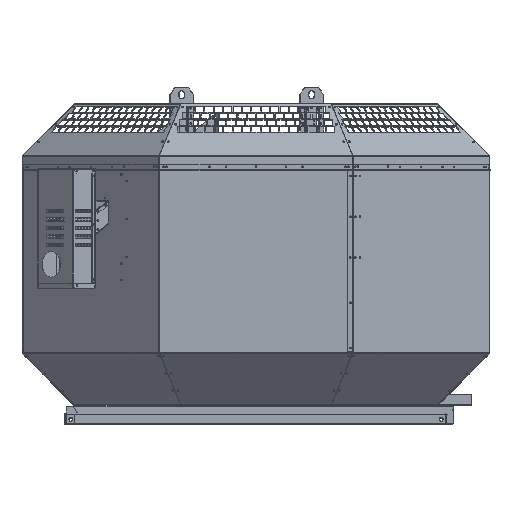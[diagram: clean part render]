
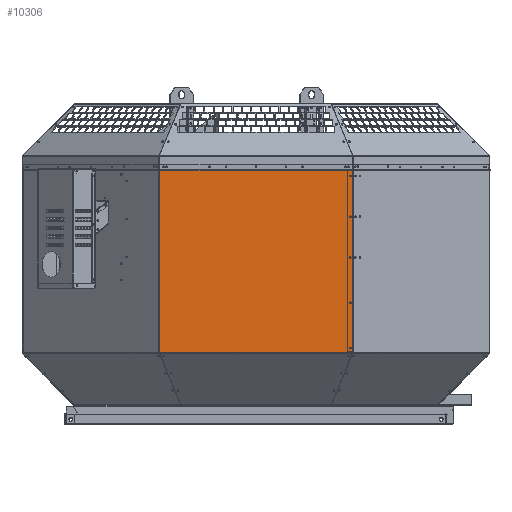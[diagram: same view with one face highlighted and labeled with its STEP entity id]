
A CAD part, top view. The second image highlights one B-rep face of the part: STEP entity #10306.
In plain terms, the highlighted planar face has unit normal (0, 0, 1).
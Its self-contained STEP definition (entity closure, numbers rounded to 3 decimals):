
#214 = CIRCLE ( 'NONE', #33744, 2.1 ) ;
#1127 = DIRECTION ( 'NONE',  ( 1., 0., 0. ) ) ;
#1325 = CARTESIAN_POINT ( 'NONE',  ( 226.759, 268.211, 568. ) ) ;
#1556 = AXIS2_PLACEMENT_3D ( 'NONE', #51888, #5310, #87255 ) ;
#1566 = VERTEX_POINT ( 'NONE', #116249 ) ;
#1591 = DIRECTION ( 'NONE',  ( 1., 0., 0. ) ) ;
#2769 = ORIENTED_EDGE ( 'NONE', *, *, #109779, .F. ) ;
#2896 = VERTEX_POINT ( 'NONE', #127883 ) ;
#3612 = FACE_BOUND ( 'NONE', #5457, .T. ) ;
#4430 = CARTESIAN_POINT ( 'NONE',  ( 234.859, 590.428, 568. ) ) ;
#4513 = AXIS2_PLACEMENT_3D ( 'NONE', #34170, #116093, #45902 ) ;
#5310 = DIRECTION ( 'NONE',  ( 0., 0., 1. ) ) ;
#5457 = EDGE_LOOP ( 'NONE', ( #67071, #97500 ) ) ;
#8535 = AXIS2_PLACEMENT_3D ( 'NONE', #51462, #133430, #63261 ) ;
#9169 = CARTESIAN_POINT ( 'NONE',  ( -233.948, 604.421, 568. ) ) ;
#10306 = ADVANCED_FACE ( 'NONE', ( #3612, #131930, #122931, #91778, #152025, #60635 ), #40180, .T. ) ;
#10477 = DIRECTION ( 'NONE',  ( 0., 0., 1. ) ) ;
#11545 = DIRECTION ( 'NONE',  ( 1., 0., 0. ) ) ;
#11685 = VERTEX_POINT ( 'NONE', #114679 ) ;
#14871 = EDGE_LOOP ( 'NONE', ( #113905, #141456 ) ) ;
#15498 = LINE ( 'NONE', #41091, #132780 ) ;
#17085 = AXIS2_PLACEMENT_3D ( 'NONE', #141452, #71265, #1127 ) ;
#17774 = ORIENTED_EDGE ( 'NONE', *, *, #138745, .T. ) ;
#18429 = VERTEX_POINT ( 'NONE', #112660 ) ;
#19358 = AXIS2_PLACEMENT_3D ( 'NONE', #38803, #120673, #50549 ) ;
#19565 = CARTESIAN_POINT ( 'NONE',  ( 228.859, 477.101, 568. ) ) ;
#20964 = DIRECTION ( 'NONE',  ( 0., -1., 0. ) ) ;
#22879 = CARTESIAN_POINT ( 'NONE',  ( -233.498, 590.421, 568. ) ) ;
#23130 = CARTESIAN_POINT ( 'NONE',  ( 230.959, 158.421, 568. ) ) ;
#23175 = VECTOR ( 'NONE', #104752, 1000. ) ;
#23180 = EDGE_CURVE ( 'NONE', #36932, #11685, #127404, .T. ) ;
#27150 = EDGE_CURVE ( 'NONE', #125587, #2896, #140538, .T. ) ;
#28287 = EDGE_CURVE ( 'NONE', #93144, #53538, #15498, .T. ) ;
#28946 = VECTOR ( 'NONE', #20964, 1000. ) ;
#29454 = EDGE_CURVE ( 'NONE', #107600, #1566, #132353, .T. ) ;
#30205 = VECTOR ( 'NONE', #129686, 1000. ) ;
#31417 = DIRECTION ( 'NONE',  ( 1., 0., 0. ) ) ;
#31539 = EDGE_CURVE ( 'NONE', #1566, #107600, #84120, .T. ) ;
#32601 = LINE ( 'NONE', #9169, #28946 ) ;
#33744 = AXIS2_PLACEMENT_3D ( 'NONE', #141915, #71742, #1591 ) ;
#34170 = CARTESIAN_POINT ( 'NONE',  ( 228.859, 477.101, 568. ) ) ;
#36932 = VERTEX_POINT ( 'NONE', #53588 ) ;
#38087 = CIRCLE ( 'NONE', #134377, 2.1 ) ;
#38803 = CARTESIAN_POINT ( 'NONE',  ( 228.859, 268.211, 568. ) ) ;
#40086 = CARTESIAN_POINT ( 'NONE',  ( 226.759, 158.421, 568. ) ) ;
#40180 = PLANE ( 'NONE',  #1556 ) ;
#40997 = LINE ( 'NONE', #46103, #103229 ) ;
#41091 = CARTESIAN_POINT ( 'NONE',  ( 234.859, 148.421, 568. ) ) ;
#44036 = ORIENTED_EDGE ( 'NONE', *, *, #27150, .F. ) ;
#44939 = VERTEX_POINT ( 'NONE', #143455 ) ;
#44951 = CARTESIAN_POINT ( 'NONE',  ( 228.859, 158.421, 568. ) ) ;
#45902 = DIRECTION ( 'NONE',  ( 1., 0., 0. ) ) ;
#46103 = CARTESIAN_POINT ( 'NONE',  ( -233.498, 604.421, 568. ) ) ;
#49393 = CIRCLE ( 'NONE', #151261, 2.1 ) ;
#50549 = DIRECTION ( 'NONE',  ( 1., 0., 0. ) ) ;
#51462 = CARTESIAN_POINT ( 'NONE',  ( 228.859, 268.211, 568. ) ) ;
#51888 = CARTESIAN_POINT ( 'NONE',  ( 234.859, 604.421, 568. ) ) ;
#53129 = ORIENTED_EDGE ( 'NONE', *, *, #61639, .T. ) ;
#53347 = LINE ( 'NONE', #4430, #111990 ) ;
#53538 = VERTEX_POINT ( 'NONE', #119807 ) ;
#53588 = CARTESIAN_POINT ( 'NONE',  ( 230.959, 378.001, 568. ) ) ;
#55775 = DIRECTION ( 'NONE',  ( 0., 0., 1. ) ) ;
#56696 = DIRECTION ( 'NONE',  ( 1., 0., 0. ) ) ;
#57850 = DIRECTION ( 'NONE',  ( 0., -1., 0. ) ) ;
#57940 = LINE ( 'NONE', #22879, #23175 ) ;
#58265 = EDGE_LOOP ( 'NONE', ( #147377, #115605, #17774, #53129, #133868, #104956 ) ) ;
#59964 = EDGE_CURVE ( 'NONE', #111748, #123919, #214, .T. ) ;
#60635 = FACE_OUTER_BOUND ( 'NONE', #58265, .T. ) ;
#61639 = EDGE_CURVE ( 'NONE', #44939, #53538, #32601, .T. ) ;
#63261 = DIRECTION ( 'NONE',  ( 1., 0., 0. ) ) ;
#67071 = ORIENTED_EDGE ( 'NONE', *, *, #59964, .F. ) ;
#71265 = DIRECTION ( 'NONE',  ( 0., 0., 1. ) ) ;
#71742 = DIRECTION ( 'NONE',  ( 0., 0., 1. ) ) ;
#73858 = CARTESIAN_POINT ( 'NONE',  ( 230.959, 477.101, 568. ) ) ;
#78277 = AXIS2_PLACEMENT_3D ( 'NONE', #44951, #126875, #56696 ) ;
#80613 = CARTESIAN_POINT ( 'NONE',  ( 228.859, 576.201, 568. ) ) ;
#81428 = CIRCLE ( 'NONE', #103396, 2.1 ) ;
#81668 = DIRECTION ( 'NONE',  ( 0., 0., 1. ) ) ;
#84120 = CIRCLE ( 'NONE', #19358, 2.1 ) ;
#86720 = EDGE_LOOP ( 'NONE', ( #142198, #88671 ) ) ;
#87255 = DIRECTION ( 'NONE',  ( 1., 0., 0. ) ) ;
#87483 = CARTESIAN_POINT ( 'NONE',  ( 234.859, 148.421, 568. ) ) ;
#88671 = ORIENTED_EDGE ( 'NONE', *, *, #126170, .F. ) ;
#90662 = EDGE_CURVE ( 'NONE', #98645, #93144, #96118, .T. ) ;
#90848 = CIRCLE ( 'NONE', #127829, 2.1 ) ;
#91778 = FACE_BOUND ( 'NONE', #128849, .T. ) ;
#92289 = CIRCLE ( 'NONE', #78277, 2.1 ) ;
#92401 = DIRECTION ( 'NONE',  ( 1., 0., 0. ) ) ;
#93144 = VERTEX_POINT ( 'NONE', #87483 ) ;
#96118 = LINE ( 'NONE', #117928, #30205 ) ;
#97500 = ORIENTED_EDGE ( 'NONE', *, *, #99942, .F. ) ;
#98129 = DIRECTION ( 'NONE',  ( 1., 0., 0. ) ) ;
#98645 = VERTEX_POINT ( 'NONE', #100103 ) ;
#99942 = EDGE_CURVE ( 'NONE', #123919, #111748, #92289, .T. ) ;
#100103 = CARTESIAN_POINT ( 'NONE',  ( 234.859, 590.428, 568. ) ) ;
#101482 = DIRECTION ( 'NONE',  ( 0., 0., 1. ) ) ;
#102904 = EDGE_CURVE ( 'NONE', #11685, #36932, #38087, .T. ) ;
#103229 = VECTOR ( 'NONE', #57850, 1000. ) ;
#103396 = AXIS2_PLACEMENT_3D ( 'NONE', #19565, #101482, #31417 ) ;
#104752 = DIRECTION ( 'NONE',  ( -1., 0., 0. ) ) ;
#104956 = ORIENTED_EDGE ( 'NONE', *, *, #90662, .F. ) ;
#107600 = VERTEX_POINT ( 'NONE', #1325 ) ;
#109779 = EDGE_CURVE ( 'NONE', #2896, #125587, #81428, .T. ) ;
#111748 = VERTEX_POINT ( 'NONE', #23130 ) ;
#111990 = VECTOR ( 'NONE', #98129, 1000. ) ;
#112660 = CARTESIAN_POINT ( 'NONE',  ( -233.498, 590.428, 568. ) ) ;
#112766 = ORIENTED_EDGE ( 'NONE', *, *, #102904, .F. ) ;
#113745 = VERTEX_POINT ( 'NONE', #137650 ) ;
#113905 = ORIENTED_EDGE ( 'NONE', *, *, #31539, .F. ) ;
#114679 = CARTESIAN_POINT ( 'NONE',  ( 226.759, 378.001, 568. ) ) ;
#115499 = CARTESIAN_POINT ( 'NONE',  ( 230.959, 576.201, 568. ) ) ;
#115605 = ORIENTED_EDGE ( 'NONE', *, *, #143877, .T. ) ;
#116093 = DIRECTION ( 'NONE',  ( 0., 0., 1. ) ) ;
#116249 = CARTESIAN_POINT ( 'NONE',  ( 230.959, 268.211, 568. ) ) ;
#117928 = CARTESIAN_POINT ( 'NONE',  ( 234.859, 604.421, 568. ) ) ;
#119807 = CARTESIAN_POINT ( 'NONE',  ( -233.948, 148.421, 568. ) ) ;
#120673 = DIRECTION ( 'NONE',  ( 0., 0., 1. ) ) ;
#122504 = EDGE_LOOP ( 'NONE', ( #44036, #2769 ) ) ;
#122931 = FACE_BOUND ( 'NONE', #122504, .T. ) ;
#122997 = EDGE_CURVE ( 'NONE', #18429, #98645, #53347, .T. ) ;
#123919 = VERTEX_POINT ( 'NONE', #40086 ) ;
#125587 = VERTEX_POINT ( 'NONE', #73858 ) ;
#125907 = CARTESIAN_POINT ( 'NONE',  ( 228.859, 576.201, 568. ) ) ;
#126170 = EDGE_CURVE ( 'NONE', #113745, #149919, #90848, .T. ) ;
#126875 = DIRECTION ( 'NONE',  ( 0., 0., 1. ) ) ;
#127404 = CIRCLE ( 'NONE', #17085, 2.1 ) ;
#127829 = AXIS2_PLACEMENT_3D ( 'NONE', #125907, #55775, #137707 ) ;
#127883 = CARTESIAN_POINT ( 'NONE',  ( 226.759, 477.101, 568. ) ) ;
#127942 = ORIENTED_EDGE ( 'NONE', *, *, #23180, .F. ) ;
#128849 = EDGE_LOOP ( 'NONE', ( #127942, #112766 ) ) ;
#129686 = DIRECTION ( 'NONE',  ( 0., -1., 0. ) ) ;
#131930 = FACE_BOUND ( 'NONE', #14871, .T. ) ;
#132353 = CIRCLE ( 'NONE', #8535, 2.1 ) ;
#132780 = VECTOR ( 'NONE', #134799, 1000. ) ;
#133430 = DIRECTION ( 'NONE',  ( 0., 0., 1. ) ) ;
#133868 = ORIENTED_EDGE ( 'NONE', *, *, #28287, .F. ) ;
#134377 = AXIS2_PLACEMENT_3D ( 'NONE', #151844, #81668, #11545 ) ;
#134799 = DIRECTION ( 'NONE',  ( -1., 0., 0. ) ) ;
#137650 = CARTESIAN_POINT ( 'NONE',  ( 226.759, 576.201, 568. ) ) ;
#137707 = DIRECTION ( 'NONE',  ( 1., 0., 0. ) ) ;
#138745 = EDGE_CURVE ( 'NONE', #141773, #44939, #57940, .T. ) ;
#140538 = CIRCLE ( 'NONE', #4513, 2.1 ) ;
#141452 = CARTESIAN_POINT ( 'NONE',  ( 228.859, 378.001, 568. ) ) ;
#141456 = ORIENTED_EDGE ( 'NONE', *, *, #29454, .F. ) ;
#141773 = VERTEX_POINT ( 'NONE', #148894 ) ;
#141915 = CARTESIAN_POINT ( 'NONE',  ( 228.859, 158.421, 568. ) ) ;
#142198 = ORIENTED_EDGE ( 'NONE', *, *, #147516, .F. ) ;
#143455 = CARTESIAN_POINT ( 'NONE',  ( -233.948, 590.421, 568. ) ) ;
#143877 = EDGE_CURVE ( 'NONE', #18429, #141773, #40997, .T. ) ;
#147377 = ORIENTED_EDGE ( 'NONE', *, *, #122997, .F. ) ;
#147516 = EDGE_CURVE ( 'NONE', #149919, #113745, #49393, .T. ) ;
#148894 = CARTESIAN_POINT ( 'NONE',  ( -233.498, 590.421, 568. ) ) ;
#149919 = VERTEX_POINT ( 'NONE', #115499 ) ;
#151261 = AXIS2_PLACEMENT_3D ( 'NONE', #80613, #10477, #92401 ) ;
#151844 = CARTESIAN_POINT ( 'NONE',  ( 228.859, 378.001, 568. ) ) ;
#152025 = FACE_BOUND ( 'NONE', #86720, .T. ) ;
